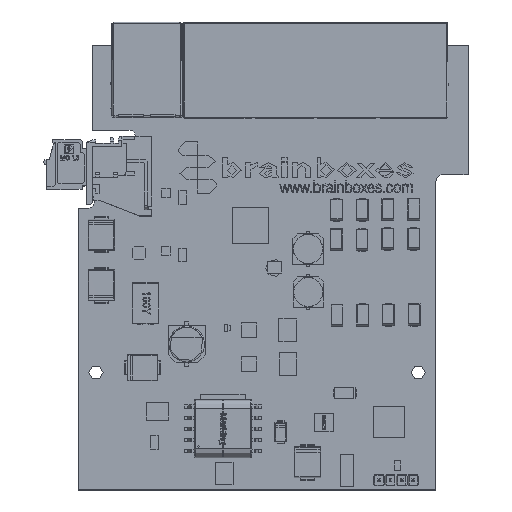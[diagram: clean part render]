
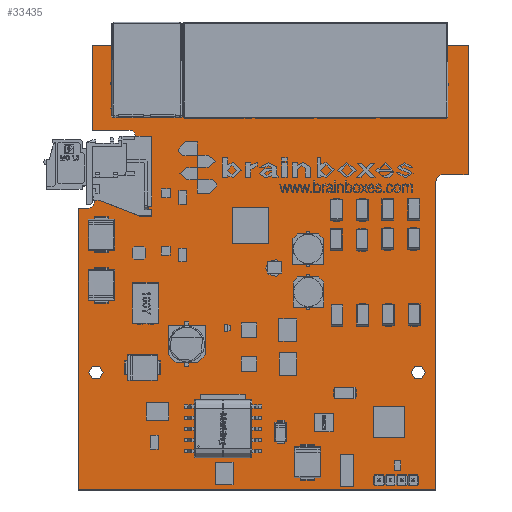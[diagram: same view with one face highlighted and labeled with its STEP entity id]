
A CAD part, top view. The second image highlights one B-rep face of the part: STEP entity #33435.
In plain terms, the highlighted planar face has unit normal (0, 0, 1).
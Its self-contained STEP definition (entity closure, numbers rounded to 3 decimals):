
#33435=ADVANCED_FACE('',(#67429,#67430,#67431),#67432,.T.);
#67429=FACE_BOUND('',#106547,.T.);
#67430=FACE_BOUND('',#106548,.T.);
#67431=FACE_OUTER_BOUND('',#106549,.T.);
#67432=PLANE('',#106550);
#106547=EDGE_LOOP('',(#202621,#202622));
#106548=EDGE_LOOP('',(#202623,#202624));
#106549=EDGE_LOOP('',(#202625,#202626,#202627,#202628,#202629,#202630,#202631,#202632,#202633,#202634,#202635,#202636,#202637,#202638,#202639,#202640,#202641,#202642,#202643));
#106550=AXIS2_PLACEMENT_3D('',#202644,#202645,#202646);
#202621=ORIENTED_EDGE('',*,*,#248269,.T.);
#202622=ORIENTED_EDGE('',*,*,#248264,.T.);
#202623=ORIENTED_EDGE('',*,*,#248277,.T.);
#202624=ORIENTED_EDGE('',*,*,#248272,.T.);
#202625=ORIENTED_EDGE('',*,*,#248280,.T.);
#202626=ORIENTED_EDGE('',*,*,#248281,.T.);
#202627=ORIENTED_EDGE('',*,*,#248282,.T.);
#202628=ORIENTED_EDGE('',*,*,#248283,.T.);
#202629=ORIENTED_EDGE('',*,*,#248284,.T.);
#202630=ORIENTED_EDGE('',*,*,#248285,.T.);
#202631=ORIENTED_EDGE('',*,*,#248286,.T.);
#202632=ORIENTED_EDGE('',*,*,#248287,.T.);
#202633=ORIENTED_EDGE('',*,*,#248288,.T.);
#202634=ORIENTED_EDGE('',*,*,#248289,.T.);
#202635=ORIENTED_EDGE('',*,*,#248290,.T.);
#202636=ORIENTED_EDGE('',*,*,#248291,.T.);
#202637=ORIENTED_EDGE('',*,*,#248292,.T.);
#202638=ORIENTED_EDGE('',*,*,#248293,.T.);
#202639=ORIENTED_EDGE('',*,*,#248294,.T.);
#202640=ORIENTED_EDGE('',*,*,#248295,.T.);
#202641=ORIENTED_EDGE('',*,*,#248296,.T.);
#202642=ORIENTED_EDGE('',*,*,#248297,.T.);
#202643=ORIENTED_EDGE('',*,*,#248298,.T.);
#202644=CARTESIAN_POINT('',(-2.594,2.208,1.7));
#202645=DIRECTION('',(0.0,0.0,1.0));
#202646=DIRECTION('',(1.0,0.0,0.0));
#248264=EDGE_CURVE('',#300513,#300514,#300515,.T.);
#248269=EDGE_CURVE('',#300514,#300513,#300522,.T.);
#248272=EDGE_CURVE('',#300525,#300526,#300527,.T.);
#248277=EDGE_CURVE('',#300526,#300525,#300534,.T.);
#248280=EDGE_CURVE('',#300537,#300538,#300539,.T.);
#248281=EDGE_CURVE('',#300538,#300540,#300541,.T.);
#248282=EDGE_CURVE('',#300540,#300542,#300543,.T.);
#248283=EDGE_CURVE('',#300542,#300544,#300545,.T.);
#248284=EDGE_CURVE('',#300544,#300546,#300547,.T.);
#248285=EDGE_CURVE('',#300546,#300548,#300549,.T.);
#248286=EDGE_CURVE('',#300548,#300550,#300551,.T.);
#248287=EDGE_CURVE('',#300550,#300552,#300553,.T.);
#248288=EDGE_CURVE('',#300552,#300554,#300555,.T.);
#248289=EDGE_CURVE('',#300554,#300556,#300557,.T.);
#248290=EDGE_CURVE('',#300556,#300558,#300559,.T.);
#248291=EDGE_CURVE('',#300558,#300560,#300561,.T.);
#248292=EDGE_CURVE('',#300560,#300562,#300563,.T.);
#248293=EDGE_CURVE('',#300562,#300564,#300565,.T.);
#248294=EDGE_CURVE('',#300564,#300566,#300567,.T.);
#248295=EDGE_CURVE('',#300566,#300568,#300569,.T.);
#248296=EDGE_CURVE('',#300568,#300570,#300571,.T.);
#248297=EDGE_CURVE('',#300570,#300572,#300573,.T.);
#248298=EDGE_CURVE('',#300572,#300537,#300574,.T.);
#300513=VERTEX_POINT('',#379473);
#300514=VERTEX_POINT('',#379474);
#300515=CIRCLE('',#379475,1.588);
#300522=CIRCLE('',#379484,1.588);
#300525=VERTEX_POINT('',#379487);
#300526=VERTEX_POINT('',#379488);
#300527=CIRCLE('',#379489,1.588);
#300534=CIRCLE('',#379498,1.588);
#300537=VERTEX_POINT('',#379501);
#300538=VERTEX_POINT('',#379502);
#300539=LINE('',#379503,#379504);
#300540=VERTEX_POINT('',#379505);
#300541=LINE('',#379506,#379507);
#300542=VERTEX_POINT('',#379508);
#300543=LINE('',#379509,#379510);
#300544=VERTEX_POINT('',#379511);
#300545=CIRCLE('',#379512,1.35);
#300546=VERTEX_POINT('',#379513);
#300547=LINE('',#379514,#379515);
#300548=VERTEX_POINT('',#379516);
#300549=LINE('',#379517,#379518);
#300550=VERTEX_POINT('',#379519);
#300551=LINE('',#379520,#379521);
#300552=VERTEX_POINT('',#379522);
#300553=LINE('',#379523,#379524);
#300554=VERTEX_POINT('',#379525);
#300555=LINE('',#379526,#379527);
#300556=VERTEX_POINT('',#379528);
#300557=CIRCLE('',#379529,1.185);
#300558=VERTEX_POINT('',#379530);
#300559=LINE('',#379531,#379532);
#300560=VERTEX_POINT('',#379533);
#300561=CIRCLE('',#379534,1.2);
#300562=VERTEX_POINT('',#379535);
#300563=LINE('',#379536,#379537);
#300564=VERTEX_POINT('',#379538);
#300565=LINE('',#379539,#379540);
#300566=VERTEX_POINT('',#379541);
#300567=CIRCLE('',#379542,1.2);
#300568=VERTEX_POINT('',#379543);
#300569=LINE('',#379544,#379545);
#300570=VERTEX_POINT('',#379546);
#300571=LINE('',#379547,#379548);
#300572=VERTEX_POINT('',#379549);
#300573=CIRCLE('',#379550,1.2);
#300574=LINE('',#379551,#379552);
#379473=CARTESIAN_POINT('',(-38.3,-23.393,1.7));
#379474=CARTESIAN_POINT('',(-41.475,-23.393,1.7));
#379475=AXIS2_PLACEMENT_3D('',#419432,#419433,#419434);
#379484=AXIS2_PLACEMENT_3D('',#419440,#419441,#419442);
#379487=CARTESIAN_POINT('',(33.773,-23.393,1.7));
#379488=CARTESIAN_POINT('',(30.598,-23.393,1.7));
#379489=AXIS2_PLACEMENT_3D('',#419446,#419447,#419448);
#379498=AXIS2_PLACEMENT_3D('',#419454,#419455,#419456);
#379501=CARTESIAN_POINT('',(-43.851,13.373,1.7));
#379502=CARTESIAN_POINT('',(-43.851,-49.631,1.7));
#379503=CARTESIAN_POINT('',(-43.851,-18.129,1.7));
#379504=VECTOR('',#419460,1.0);
#379505=CARTESIAN_POINT('',(36.149,-49.631,1.7));
#379506=CARTESIAN_POINT('',(-3.851,-49.631,1.7));
#379507=VECTOR('',#419461,1.0);
#379508=CARTESIAN_POINT('',(36.149,19.334,1.7));
#379509=CARTESIAN_POINT('',(36.149,-15.148,1.7));
#379510=VECTOR('',#419462,1.0);
#379511=CARTESIAN_POINT('',(37.329,20.834,1.7));
#379512=AXIS2_PLACEMENT_3D('',#419463,#419464,#419465);
#379513=CARTESIAN_POINT('',(43.349,20.834,1.7));
#379514=CARTESIAN_POINT('',(40.339,20.834,1.7));
#379515=VECTOR('',#419466,1.0);
#379516=CARTESIAN_POINT('',(43.349,49.857,1.7));
#379517=CARTESIAN_POINT('',(43.349,35.346,1.7));
#379518=VECTOR('',#419467,1.0);
#379519=CARTESIAN_POINT('',(-40.751,49.857,1.7));
#379520=CARTESIAN_POINT('',(1.299,49.857,1.7));
#379521=VECTOR('',#419468,1.0);
#379522=CARTESIAN_POINT('',(-40.751,30.835,1.7));
#379523=CARTESIAN_POINT('',(-40.751,40.346,1.7));
#379524=VECTOR('',#419469,1.0);
#379525=CARTESIAN_POINT('',(-32.261,30.835,1.7));
#379526=CARTESIAN_POINT('',(-36.506,30.835,1.7));
#379527=VECTOR('',#419470,1.0);
#379528=CARTESIAN_POINT('',(-31.099,29.634,1.7));
#379529=AXIS2_PLACEMENT_3D('',#419471,#419472,#419473);
#379530=CARTESIAN_POINT('',(-31.099,20.573,1.7));
#379531=CARTESIAN_POINT('',(-31.099,25.104,1.7));
#379532=VECTOR('',#419474,1.0);
#379533=CARTESIAN_POINT('',(-32.299,19.373,1.7));
#379534=AXIS2_PLACEMENT_3D('',#419475,#419476,#419477);
#379535=CARTESIAN_POINT('',(-38.799,19.373,1.7));
#379536=CARTESIAN_POINT('',(-35.549,19.373,1.7));
#379537=VECTOR('',#419478,1.0);
#379538=CARTESIAN_POINT('',(-38.799,17.573,1.7));
#379539=CARTESIAN_POINT('',(-38.799,18.473,1.7));
#379540=VECTOR('',#419479,1.0);
#379541=CARTESIAN_POINT('',(-39.999,16.373,1.7));
#379542=AXIS2_PLACEMENT_3D('',#419480,#419481,#419482);
#379543=CARTESIAN_POINT('',(-40.299,16.373,1.7));
#379544=CARTESIAN_POINT('',(-40.149,16.373,1.7));
#379545=VECTOR('',#419483,1.0);
#379546=CARTESIAN_POINT('',(-40.299,14.573,1.7));
#379547=CARTESIAN_POINT('',(-40.299,15.473,1.7));
#379548=VECTOR('',#419484,1.0);
#379549=CARTESIAN_POINT('',(-41.499,13.373,1.7));
#379550=AXIS2_PLACEMENT_3D('',#419485,#419486,#419487);
#379551=CARTESIAN_POINT('',(-42.675,13.373,1.7));
#379552=VECTOR('',#419488,1.0);
#419432=CARTESIAN_POINT('',(-39.887,-23.393,1.7));
#419433=DIRECTION('',(0.0,-0.0,-1.0));
#419434=DIRECTION('',(1.,0.,0.0));
#419440=CARTESIAN_POINT('',(-39.887,-23.393,1.7));
#419441=DIRECTION('',(-0.0,0.0,-1.0));
#419442=DIRECTION('',(-1.,0.,0.0));
#419446=CARTESIAN_POINT('',(32.186,-23.393,1.7));
#419447=DIRECTION('',(0.0,-0.0,-1.0));
#419448=DIRECTION('',(1.,0.,0.0));
#419454=CARTESIAN_POINT('',(32.186,-23.393,1.7));
#419455=DIRECTION('',(-0.0,0.0,-1.0));
#419456=DIRECTION('',(-1.,0.,0.0));
#419460=DIRECTION('',(0.,-1.,0.0));
#419461=DIRECTION('',(1.0,0.0,0.0));
#419462=DIRECTION('',(0.,1.,0.0));
#419463=CARTESIAN_POINT('',(37.489,19.494,1.7));
#419464=DIRECTION('',(-0.0,0.0,-1.0));
#419465=DIRECTION('',(-0.993,-0.119,0.0));
#419466=DIRECTION('',(1.,0.,0.0));
#419467=DIRECTION('',(0.0,1.0,0.0));
#419468=DIRECTION('',(-1.0,0.0,0.0));
#419469=DIRECTION('',(0.0,-1.0,0.0));
#419470=DIRECTION('',(1.0,0.0,0.0));
#419471=CARTESIAN_POINT('',(-32.284,29.65,1.7));
#419472=DIRECTION('',(0.0,0.0,-1.0));
#419473=DIRECTION('',(0.019,1.,0.0));
#419474=DIRECTION('',(0.,-1.0,0.0));
#419475=CARTESIAN_POINT('',(-32.299,20.573,1.7));
#419476=DIRECTION('',(0.0,0.0,-1.0));
#419477=DIRECTION('',(1.,0.,0.0));
#419478=DIRECTION('',(-1.0,0.0,0.0));
#419479=DIRECTION('',(0.0,-1.0,0.0));
#419480=CARTESIAN_POINT('',(-39.999,17.573,1.7));
#419481=DIRECTION('',(0.0,0.0,-1.0));
#419482=DIRECTION('',(1.,0.,0.0));
#419483=DIRECTION('',(-1.0,0.,0.0));
#419484=DIRECTION('',(0.0,-1.0,0.0));
#419485=CARTESIAN_POINT('',(-41.499,14.573,1.7));
#419486=DIRECTION('',(0.0,0.0,-1.0));
#419487=DIRECTION('',(1.,0.,0.0));
#419488=DIRECTION('',(-1.0,0.0,0.0));
